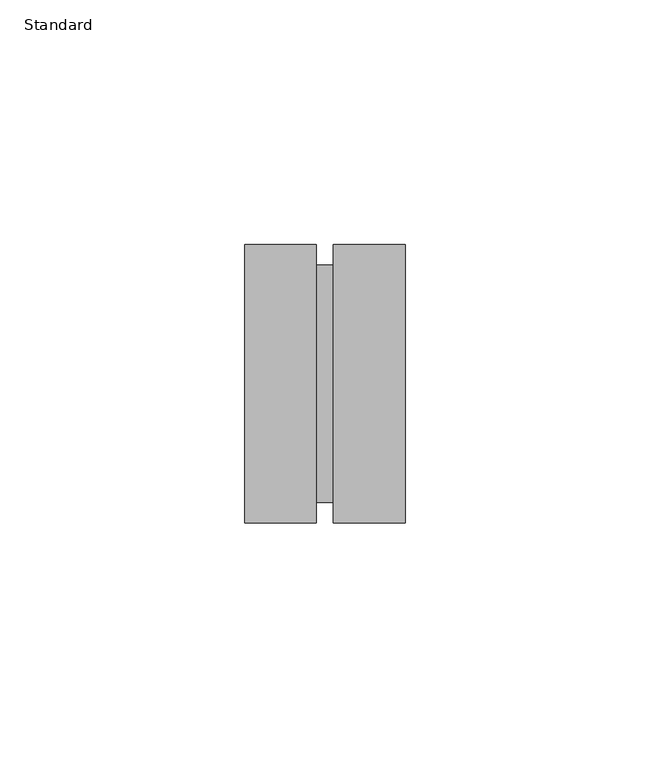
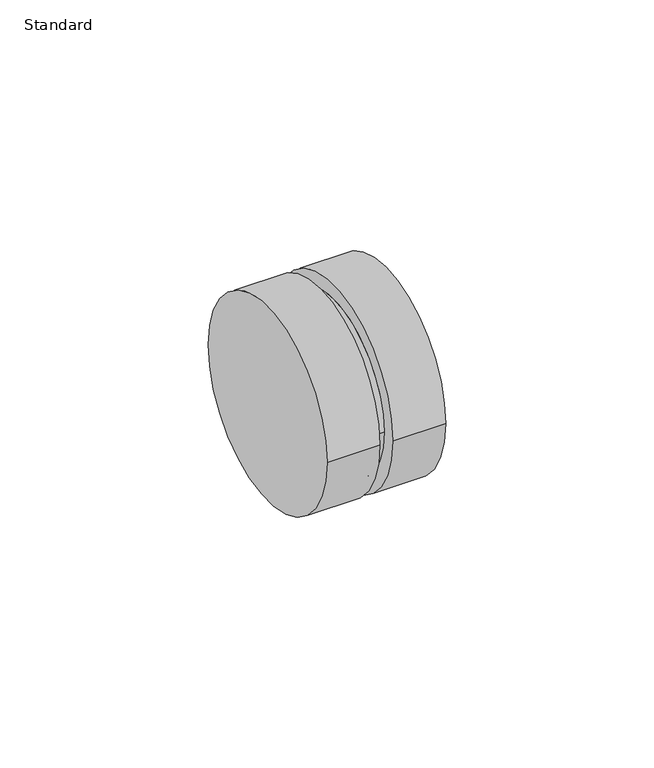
"""IFC4 building model written with IfcOpenShell, lengths in millimetres: pipe fitting geometry, Cople_Lubrizol_CPVC_FlowGuard_MX : Standard."""

from ifc_helpers import new_model, si_unit, frame, origin, place, context, project, spatial, circle_curve, source, transform, mapped, element, save
from ifc_brep_helpers import plane_surface, cylinder_surface, advanced_brep


def standard_29754d0d(model_context):
    return source(origin(), model_context, "Body", "AdvancedBrep", [
        advanced_brep(
        [(-16.4108594, -28.5071094, 0.0), (-16.4108594, 28.5071094, 0.0), (-1.7690625, -28.5071094, 0.0), (-1.7690625, 28.5071094, 0.0), (-1.7690625, -24.3240625, 0.0), (-1.7690625, 24.3240625, 0.0), (1.7690625, -24.3240625, 0.0), (1.7690625, 24.3240625, 0.0), (1.7690625, -28.5071094, 0.0), (1.7690625, 28.5071094, 0.0), (16.4108594, -28.5071094, 0.0), (16.4108594, 28.5071094, 0.0)],
        [
            (0, 1, circle_curve(frame((-16.4108594, 0.0, 0.0), z_axis=(-1.0, 0.0, 0.0), x_axis=(0.0, 1.0, 0.0)), 28.5071094)),
            (1, 0, circle_curve(frame((-16.4108594, 0.0, 0.0), z_axis=(-1.0, 0.0, 0.0), x_axis=(0.0, 1.0, 0.0)), 28.5071094)),
            (2, 3, circle_curve(frame((-1.7690625, 0.0, 0.0), z_axis=(1.0, 0.0, 0.0), x_axis=(0.0, 1.0, 0.0)), 28.5071094)),
            (3, 2, circle_curve(frame((-1.7690625, 0.0, 0.0), z_axis=(1.0, 0.0, 0.0), x_axis=(0.0, 1.0, 0.0)), 28.5071094)),
            (4, 5, circle_curve(frame((-1.7690625, 0.0, 0.0), z_axis=(-1.0, 0.0, 0.0), x_axis=(0.0, 1.0, 0.0)), 24.3240625)),
            (5, 4, circle_curve(frame((-1.7690625, 0.0, 0.0), z_axis=(-1.0, 0.0, 0.0), x_axis=(0.0, 1.0, 0.0)), 24.3240625)),
            (0, 2),
            (3, 1),
            (4, 6),
            (6, 7, circle_curve(frame((1.7690625, 0.0, 0.0), z_axis=(-1.0, 0.0, 0.0), x_axis=(0.0, 1.0, 0.0)), 24.3240625)),
            (7, 5),
            (7, 6, circle_curve(frame((1.7690625, 0.0, 0.0), z_axis=(-1.0, 0.0, 0.0), x_axis=(0.0, 1.0, 0.0)), 24.3240625)),
            (8, 9, circle_curve(frame((1.7690625, 0.0, 0.0), z_axis=(-1.0, 0.0, 0.0), x_axis=(0.0, 1.0, 0.0)), 28.5071094)),
            (9, 8, circle_curve(frame((1.7690625, 0.0, 0.0), z_axis=(-1.0, 0.0, 0.0), x_axis=(0.0, 1.0, 0.0)), 28.5071094)),
            (10, 11, circle_curve(frame((16.4108594, 0.0, 0.0), z_axis=(1.0, 0.0, 0.0), x_axis=(0.0, 1.0, 0.0)), 28.5071094)),
            (11, 10, circle_curve(frame((16.4108594, 0.0, 0.0), z_axis=(1.0, 0.0, 0.0), x_axis=(0.0, 1.0, 0.0)), 28.5071094)),
            (8, 10),
            (11, 9),
        ],
        [
            plane_surface(frame((-16.4108594, 0.0, 0.0), z_axis=(-1.0, 0.0, 0.0), x_axis=(0.0, 0.0, 1.0))),
            plane_surface(frame((-1.7690625, 0.0, 0.0), z_axis=(1.0, 0.0, 0.0), x_axis=(0.0, 0.0, 1.0))),
            cylinder_surface(frame((-16.4108594, 0.0, 0.0), z_axis=(-1.0, 0.0, 0.0), x_axis=(0.0, 1.0, 0.0)), 28.5071094),
            cylinder_surface(frame((-1.7690625, 0.0, 0.0), z_axis=(-1.0, 0.0, 0.0), x_axis=(0.0, 1.0, 0.0)), 24.3240625),
            plane_surface(frame((1.7690625, 0.0, 0.0), z_axis=(-1.0, 0.0, 0.0), x_axis=(0.0, 0.0, 1.0))),
            plane_surface(frame((16.4108594, 0.0, 0.0), z_axis=(1.0, 0.0, 0.0), x_axis=(0.0, 0.0, 1.0))),
            cylinder_surface(frame((1.7690625, 0.0, 0.0), z_axis=(-1.0, 0.0, 0.0), x_axis=(0.0, 1.0, 0.0)), 28.5071094),
        ],
        [
            (0, [[1, 2]]),
            (1, [[3, 4], [5, 6]]),
            (2, [[-1, 7, -4, 8]]),
            (2, [[-2, -8, -3, -7]]),
            (3, [[9, 10, 11, -5]]),
            (3, [[-9, -6, -11, 12]]),
            (4, [[13, 14], [-10, -12]]),
            (5, [[15, 16]]),
            (6, [[-13, 17, -16, 18]]),
            (6, [[-14, -18, -15, -17]]),
        ],
    ),
    ])


if __name__ == "__main__":
    model = new_model("IFC4")
    model_context = context("Model", 3, world=origin())
    ifc_project = project(units=[si_unit("LENGTHUNIT", "METRE", prefix="MILLI")], contexts=[model_context])
    site = spatial("IfcSite", under=ifc_project)
    building = spatial("IfcBuilding", under=site)
    placement = place(None, origin())
    standard_shape = standard_29754d0d(model_context)
    element("IfcPipeFitting", 1, ObjectType="Cople_Lubrizol_CPVC_FlowGuard_MX : Standard", at=placement, inside=building, context=model_context, shape_type="MappedRepresentation", body=[
        mapped(standard_shape, transform((0.0, 0.0, 0.0), x_axis=(1.0, 0.0, 0.0), y_axis=(0.0, 1.0, 0.0), z_axis=(0.0, 0.0, 1.0))),
    ])
    save(model, "model.ifc")
